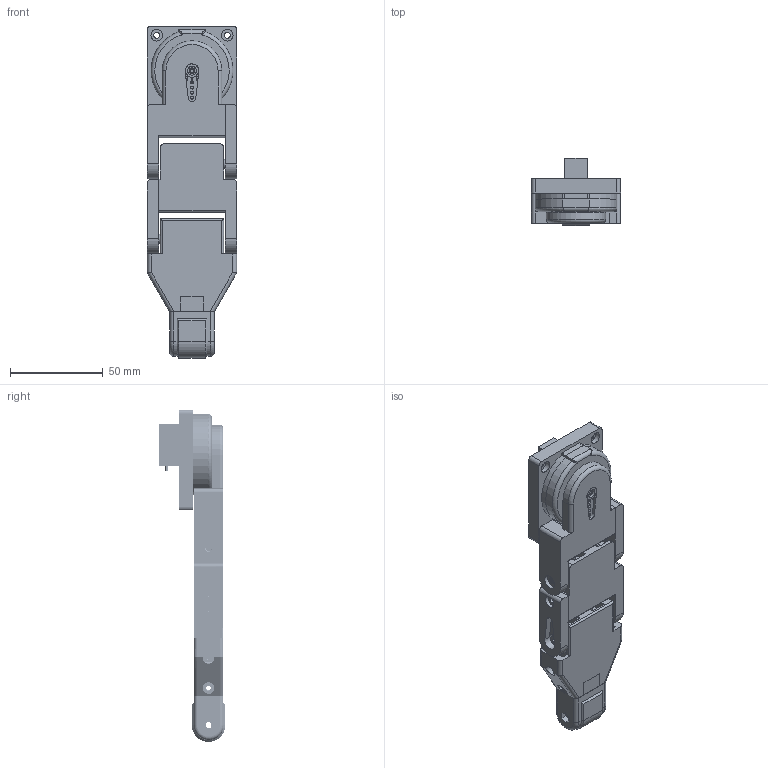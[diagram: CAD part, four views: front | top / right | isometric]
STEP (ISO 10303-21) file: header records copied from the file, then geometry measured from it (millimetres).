
FILE_DESCRIPTION(/* description */ (''),/* implementation_level */ '2;1');
FILE_NAME(/* name */ 'QuadrupedalLeg_V1.step',/* time_stamp */ '2024-08-31T16:06:39+09:00',/* author */ (''),/* organization */ (''),/* preprocessor_version */ 'ST-DEVELOPER v20',/* originating_system */ 'Autodesk Translation Framework v13.14.0.145',/* authorisation */ '');
FILE_SCHEMA (('AUTOMOTIVE_DESIGN { 1 0 10303 214 3 1 1 }'));
Products named in the file (16): QuadrupedalLeg V1; Toes; ToesCover; ToesJoint; UnderLeg; MicroServoMoter-MG90S; UpperLeg; MicroServoMoter-MG90S_1; ServoHead; CrotchLeg; MicroServoMoter-MG90S_2; MG90S-BODY; MG90S-GEAR; MG90S-HORN1; LegBase; LegBaseCap
Assembly tree (21 placements, depth 3):
  QuadrupedalLeg V1
    Toes
    ToesCover
    ToesJoint
    UnderLeg
    MicroServoMoter-MG90S
      MG90S-BODY
      MG90S-GEAR
    ServoHead  x2
    UpperLeg
    MicroServoMoter-MG90S_1
      MG90S-BODY
      MG90S-GEAR
      MG90S-HORN1
    CrotchLeg
    MicroServoMoter-MG90S_2
      MG90S-BODY
      MG90S-GEAR
      MG90S-HORN1
    LegBase
    LegBaseCap
Bounding box: 48 x 35.8 x 178.6 mm (x, y, z)
Volume: 95383.7 mm3; surface area: 54124.9 mm2
Topology: 18 solids, 18 shells, 1071 faces, 2929 edges, 1930 vertices
Faces by surface type: cylinder 691, plane 330, bspline 44, torus 4, cone 2
Full cylindrical faces by diameter (mm): 1.6 x10, 1.623 x52, 1.8 x3, 2.074 x34, 2.529 x44, 3 x2, 3.086 x23, 3.2 x15, 3.332 x8, 4.109 x2, 4.4 x2, 4.8 x10, 6.2 x15, 7 x2, 7.2 x1, 7.4 x4, 10 x2
Entity records: 57575 total; most frequent: CARTESIAN_POINT 36219, ORIENTED_EDGE 4878, DIRECTION 3522, EDGE_CURVE 2439, VERTEX_POINT 1612, AXIS2_PLACEMENT_3D 1225, LINE 1072, VECTOR 1072
